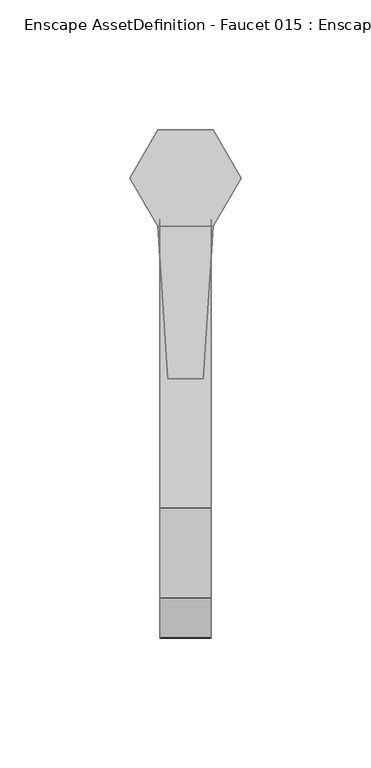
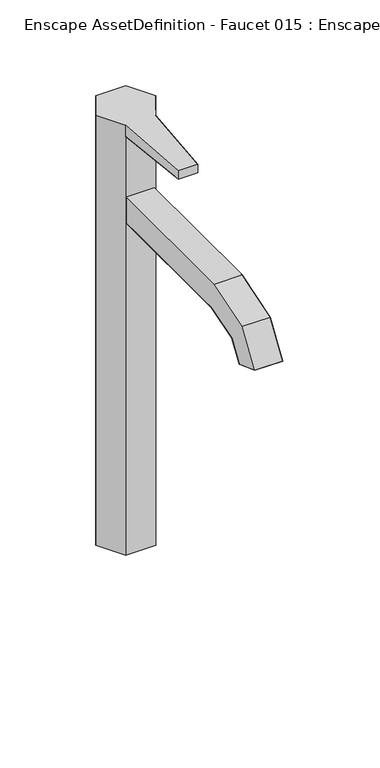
"""IFC4 building model written with IfcOpenShell, lengths in millimetres: geographic element geometry, Enscape AssetDefinition - Faucet 015 : Enscape AssetDefinition - Faucet 015."""

import ifcopenshell
import ifcopenshell.guid

model = None  # the IFC model being written
_history = None  # IfcOwnerHistory: only IFC2X3 demands one
_inside = {}  # id of a spatial element -> (the spatial element, [elements in it])
_under = {}  # id of a project, library or spatial element -> (it, [spatial elements below it])
_declared = {}  # id of a project -> (the project, [libraries it declares])
_typed = {}  # id of a type object -> (the type object, [elements of that type])
_made_of = {}  # id of a material, layer set ... -> (it, [elements and type objects made of it])


def new_model(schema):
    """Start an empty IFC model of exactly this schema.

    Asked for "IFC4X3", IfcOpenShell would pick the latest addendum, in which some entities
    have other attributes; the version numbers below select the first issue.
    IFC2X3 requires an IfcOwnerHistory on every rooted entity: one is made here for all.
    """
    global model, _history
    if schema == "IFC4X3":
        model = ifcopenshell.file(schema_version=(4, 3, 0, 0))
    else:
        model = ifcopenshell.file(schema=schema)
    _inside.clear()
    _under.clear()
    _declared.clear()
    _typed.clear()
    _made_of.clear()
    _history = None
    if model.schema == "IFC2X3":
        org = make("IfcOrganization", Name="unknown")
        user = make(
            "IfcPersonAndOrganization",
            ThePerson=make("IfcPerson", FamilyName="unknown"),
            TheOrganization=org,
        )
        app = make(
            "IfcApplication",
            ApplicationDeveloper=org,
            Version="unknown",
            ApplicationFullName="unknown",
            ApplicationIdentifier="unknown",
        )
        _history = make(
            "IfcOwnerHistory",
            OwningUser=user,
            OwningApplication=app,
            ChangeAction="ADDED",
            CreationDate=0,
        )
    return model


def make(cls, **values):
    """One entity of the class cls with the attributes given. An attribute that is None is left unset."""
    return model.create_entity(
        cls, **{name: value for name, value in values.items() if value is not None}
    )


def rooted(cls, **values):
    """An entity with a GlobalId (a new one), such as an element, a storey or a relation."""
    return make(cls, GlobalId=ifcopenshell.guid.new(), OwnerHistory=_history, **values)


def si_unit(unit_type, name, prefix=None):
    """IfcSIUnit, for example si_unit("LENGTHUNIT", "METRE", prefix="MILLI")."""
    return make("IfcSIUnit", UnitType=unit_type, Prefix=prefix, Name=name)


def assignment(units):
    """IfcUnitAssignment: the units of a project."""
    return None if units is None else make("IfcUnitAssignment", Units=units)


def point(xyz):
    """IfcCartesianPoint."""
    return None if xyz is None else make("IfcCartesianPoint", Coordinates=xyz)


def direction(xyz):
    """IfcDirection."""
    return None if xyz is None else make("IfcDirection", DirectionRatios=xyz)


def frame(location, z_axis=None, x_axis=None):
    """IfcAxis2Placement3D, a coordinate frame: its origin and axes. An axis left out is left unset."""
    return make(
        "IfcAxis2Placement3D",
        Location=point(location),
        Axis=direction(z_axis),
        RefDirection=direction(x_axis),
    )


def origin():
    """The frame at (0, 0, 0) with its axes left unset."""
    return frame((0.0, 0.0, 0.0))


def place(relative_to, where):
    """IfcLocalPlacement: puts the frame where relative to a parent placement (None: the world)."""
    return make(
        "IfcLocalPlacement", PlacementRelTo=relative_to, RelativePlacement=where
    )


def context(
    kind, dimensions, precision=None, world=None, true_north=None, identifier=None
):
    """IfcGeometricRepresentationContext, for example the 3D "Model" context."""
    return make(
        "IfcGeometricRepresentationContext",
        ContextIdentifier=identifier,
        ContextType=kind,
        CoordinateSpaceDimension=dimensions,
        Precision=precision,
        WorldCoordinateSystem=world,
        TrueNorth=true_north,
    )


def project(units=None, contexts=None):
    """IfcProject with its units and contexts."""
    return rooted(
        "IfcProject",
        Name="project",
        RepresentationContexts=contexts,
        UnitsInContext=assignment(units),
    )


def spatial(cls, under=None, at=None, **own):
    """A site, building, storey or space (cls), placed at a placement, below another one or the project."""
    s = rooted(cls, ObjectPlacement=at, **own)
    if under is not None:
        _under.setdefault(under.id(), (under, []))[1].append(s)
    return s


def point_list(points):
    """IfcCartesianPointList2D or 3D."""
    cls = (
        "IfcCartesianPointList2D" if len(points[0]) == 2 else "IfcCartesianPointList3D"
    )
    return make(cls, CoordList=points)


def triangles(points, corners, closed=None, point_numbers=None):
    """IfcTriangulatedFaceSet: each triangle names its three corners, points numbered from 1."""
    return make(
        "IfcTriangulatedFaceSet",
        Coordinates=point_list(points),
        Closed=closed,
        CoordIndex=corners,
        PnIndex=point_numbers,
    )


def shape(context_of_items, identifier, shape_type, items):
    """IfcShapeRepresentation: the items that make up one representation, for example the "Body"."""
    return make(
        "IfcShapeRepresentation",
        ContextOfItems=context_of_items,
        RepresentationIdentifier=identifier,
        RepresentationType=shape_type,
        Items=items,
    )


def source(mapping_origin, context_of_items, identifier, shape_type, items):
    """IfcRepresentationMap: a shape defined once, which mapped items show again and again."""
    return make(
        "IfcRepresentationMap",
        MappingOrigin=mapping_origin,
        MappedRepresentation=shape(context_of_items, identifier, shape_type, items),
    )


def transform(
    local_origin,
    x_axis=None,
    y_axis=None,
    z_axis=None,
    scale=None,
    scale2=None,
    scale3=None,
    uniform=True,
):
    """IfcCartesianTransformationOperator3D, or its non-uniform kind. x_axis, y_axis, z_axis: its Axis1, 2, 3."""
    if uniform:
        return make(
            "IfcCartesianTransformationOperator3D",
            Axis1=direction(x_axis),
            Axis2=direction(y_axis),
            LocalOrigin=point(local_origin),
            Scale=scale,
            Axis3=direction(z_axis),
        )
    return make(
        "IfcCartesianTransformationOperator3DnonUniform",
        Axis1=direction(x_axis),
        Axis2=direction(y_axis),
        LocalOrigin=point(local_origin),
        Scale=scale,
        Axis3=direction(z_axis),
        Scale2=scale2,
        Scale3=scale3,
    )


def mapped(mapping_source, mapping_target):
    """IfcMappedItem: shows the shape of a source again, moved by a transform."""
    return make(
        "IfcMappedItem", MappingSource=mapping_source, MappingTarget=mapping_target
    )


def made_of(thing, what):
    """Note that an element or type object is made of a material, layer set ...; save() writes the relation."""
    if what is not None:
        _made_of.setdefault(what.id(), (what, []))[1].append(thing)
    return thing


def element(
    cls,
    number,
    at=None,
    inside=None,
    cuts=None,
    type_object=None,
    material=None,
    context=None,
    identifier="Body",
    shape_type=None,
    held_by="IfcProductDefinitionShape",
    body=None,
    shapes=None,
    **own,
):
    """One element of the class cls, such as IfcWall. Its Tag is "e" and its number.

    at: its placement. inside: the storey or other place that contains it. cuts: it is an
    opening in that element (IfcRelVoidsElement). A single representation is given by context,
    identifier, shape_type and body (its items); several are given by shapes. held_by: the class
    of the entity that holds the representations. save() writes the other relations.
    """
    e = rooted(cls, Tag="e%d" % number, ObjectPlacement=at, **own)
    if body is not None:
        shapes = [shape(context, identifier, shape_type, body)]
    if shapes is not None:
        e.Representation = make(held_by, Representations=shapes)
    if inside is not None:
        _inside.setdefault(inside.id(), (inside, []))[1].append(e)
    if cuts is not None:
        rooted(
            "IfcRelVoidsElement", RelatingBuildingElement=cuts, RelatedOpeningElement=e
        )
    if type_object is not None:
        _typed.setdefault(type_object.id(), (type_object, []))[1].append(e)
    return made_of(e, material)


def aggregate(whole, parts):
    """IfcRelAggregates: a whole, such as a stair, and the parts it consists of."""
    return rooted("IfcRelAggregates", RelatingObject=whole, RelatedObjects=parts)


def save(model, path):
    """Write the relations noted so far, then the file.

    IfcRelAggregates (storeys below a building ...), IfcRelContainedInSpatialStructure (elements
    in a storey), IfcRelDefinesByType, IfcRelAssociatesMaterial and IfcRelDeclares: one each for
    every whole, place, type object, material and project.
    """
    for whole, parts in _under.values():
        aggregate(whole, parts)
    for where, things in _inside.values():
        rooted(
            "IfcRelContainedInSpatialStructure",
            RelatedElements=things,
            RelatingStructure=where,
        )
    for kind, things in _typed.values():
        rooted("IfcRelDefinesByType", RelatedObjects=things, RelatingType=kind)
    for what, things in _made_of.values():
        rooted("IfcRelAssociatesMaterial", RelatedObjects=things, RelatingMaterial=what)
    for by, libraries in _declared.values():
        rooted("IfcRelDeclares", RelatingContext=by, RelatedDefinitions=libraries)
    model.write(path)


def enscape_assetdefinition_faucet_015_enscape_assetdefinition_f2fae8d0(model_context):
    return source(origin(), model_context, "Body", "Tessellation", [
        triangles([(10.7389998, 18.6000002, 316.4919826), (21.4770003, 0.0, 316.4919826), (21.4770003, 0.0, 0.0), (10.7389998, 18.6000002, 0.0), (-10.7389998, 18.6000002, 0.0), (10.7389998, 18.6000002, 325.0000025), (10.7389998, -18.6000002, 0.0), (-10.7389998, -18.6000002, 0.0), (-21.4770003, 0.0, 316.4919826), (-6.9100002, -77.2560039, 318.4429899), (-10.7389998, -18.6000002, 316.4919826), (-21.4770003, 0.0, 0.0), (-10.7389998, 18.6000002, 316.4919826), (-21.4770003, 0.0, 325.0000025), (-10.7389998, -18.6000002, 325.0000025), (-10.7389998, 18.6000002, 325.0000025), (21.4770003, 0.0, 325.0000025), (-6.9100002, -77.2560039, 325.0000025), (10.7389998, -18.6000002, 325.0000025), (6.9100002, -77.2560039, 325.0000025), (6.9100002, -77.2560039, 318.4429899), (10.7389998, -18.6000002, 316.4919826), (-9.9999994, -158.0830107, 228.5569975), (-9.9999994, -177.2699936, 235.6369978), (-9.9999994, -161.6400065, 259.5439869), (-9.9999994, -148.8980063, 242.9069937), (9.9999994, -123.5020001, 250.4369847), (9.9999994, -177.2699936, 235.6369978), (9.9999994, -158.0830107, 228.5569975), (-9.9999994, -127.0419911, 270.4369994), (9.9999994, -161.6400065, 259.5439869), (-9.9999994, -123.5020001, 250.4369847), (9.9999994, -15.788, 250.4369847), (-9.9999994, -15.788, 250.4369847), (-9.9999994, -15.788, 270.4369994), (9.9999994, -148.8980063, 242.9069937), (9.9999994, -127.0419911, 270.4369994), (9.9999994, -15.788, 270.4369994)], [[27, 33, 38], [37, 38, 35], [38, 37, 27], [36, 27, 37], [37, 31, 36], [29, 36, 31], [31, 28, 29], [35, 30, 37], [30, 35, 34], [31, 37, 30], [32, 34, 33], [33, 27, 32], [34, 32, 30], [30, 25, 31], [25, 30, 32], [28, 31, 25], [29, 28, 24], [25, 24, 28], [24, 23, 29], [36, 29, 23], [26, 32, 27], [27, 36, 26], [32, 26, 25], [23, 26, 36], [24, 25, 26], [26, 23, 24], [10, 18, 15], [10, 21, 20], [20, 18, 10], [20, 21, 22], [22, 19, 20], [18, 20, 19], [19, 15, 18], [17, 19, 22], [19, 17, 15], [17, 16, 15], [17, 6, 16], [16, 14, 15], [14, 16, 13], [13, 5, 12], [15, 14, 9], [13, 9, 14], [12, 9, 13], [9, 12, 8], [21, 10, 11], [11, 22, 21], [15, 11, 10], [9, 11, 15], [8, 11, 9], [11, 8, 7], [7, 22, 11], [22, 7, 3], [22, 2, 17], [6, 17, 2], [3, 2, 22], [1, 13, 16], [16, 6, 1], [2, 1, 6], [5, 13, 1], [1, 4, 5], [2, 3, 4], [4, 1, 2]], closed=False),
    ])


if __name__ == "__main__":
    model = new_model("IFC4")
    model_context = context("Model", 3, world=origin())
    ifc_project = project(units=[si_unit("LENGTHUNIT", "METRE", prefix="MILLI")], contexts=[model_context])
    site = spatial("IfcSite", under=ifc_project)
    building = spatial("IfcBuilding", under=site)
    placement = place(None, origin())
    enscape_assetdefinition_faucet_015_enscape_assetdefinition_shape = enscape_assetdefinition_faucet_015_enscape_assetdefinition_f2fae8d0(model_context)
    element("IfcGeographicElement", 1, ObjectType="Enscape AssetDefinition - Faucet 015 : Enscape AssetDefinition - Faucet 015", at=placement, inside=building, context=model_context, shape_type="MappedRepresentation", body=[
        mapped(enscape_assetdefinition_faucet_015_enscape_assetdefinition_shape, transform((0.0, 0.0, 0.0), x_axis=(1.0, 0.0, 0.0), y_axis=(0.0, 1.0, 0.0), z_axis=(0.0, 0.0, 1.0))),
    ])
    save(model, "model.ifc")
